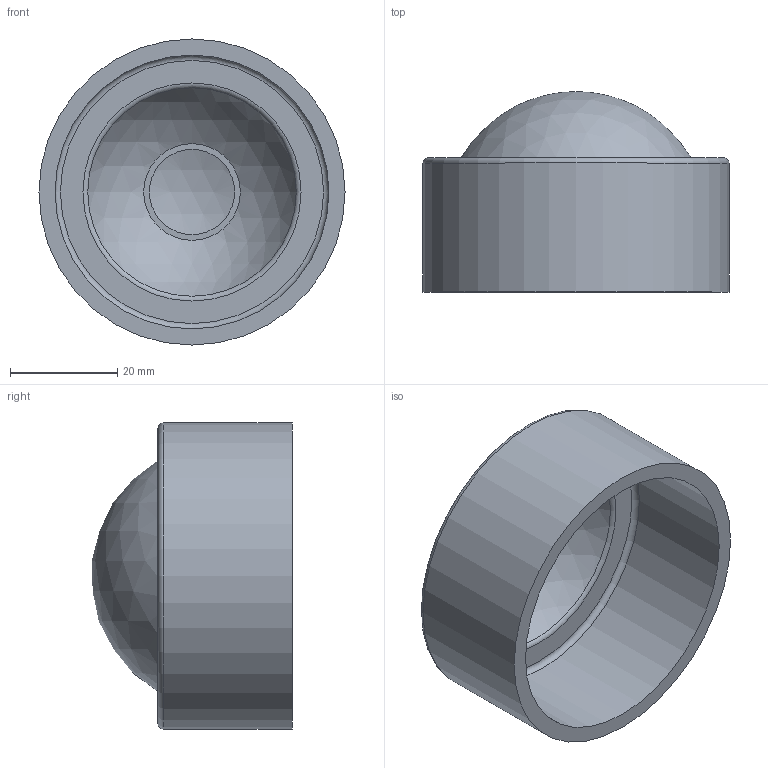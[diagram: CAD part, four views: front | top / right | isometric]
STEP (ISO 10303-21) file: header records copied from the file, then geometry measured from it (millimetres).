
FILE_DESCRIPTION(/* description */ (''),/* implementation_level */ '2;1');
FILE_NAME(/* name */ 'C:\Users\Callum\The Trustee for INKSTONE UNIT TRUST\GRP Australia - Documents\8 Drawings\Handrails\3D Models\Handrail Fittings STEP\MH1-End Cap.stp',/* time_stamp */ '2022-09-15T10:24:27+10:00',/* author */ ('Callum'),/* organization */ (''),/* preprocessor_version */ 'ST-DEVELOPER v18.1',/* originating_system */ 'Autodesk Inventor 2022',/* authorisation */ '');
FILE_SCHEMA (('AUTOMOTIVE_DESIGN { 1 0 10303 214 3 1 1 }'));
Length unit declared in the file: millimetre
Products named in the file (1): MH1-End Cap
Bounding box: 57 x 37.33 x 57 mm (x, y, z)
Volume: 20300 mm3; surface area: 13941.8 mm2
Topology: 1 solids, 1 shells, 14 faces, 22 edges, 15 vertices
Faces by surface type: torus 4, plane 4, sphere 3, cylinder 3
Full cylindrical faces by diameter (mm): 18 x1, 51 x1, 57 x1
Entity records: 399 total; most frequent: DIRECTION 71, CARTESIAN_POINT 52, ORIENTED_EDGE 44, AXIS2_PLACEMENT_3D 34, EDGE_CURVE 22, EDGE_LOOP 19, CIRCLE 19, VERTEX_POINT 15
